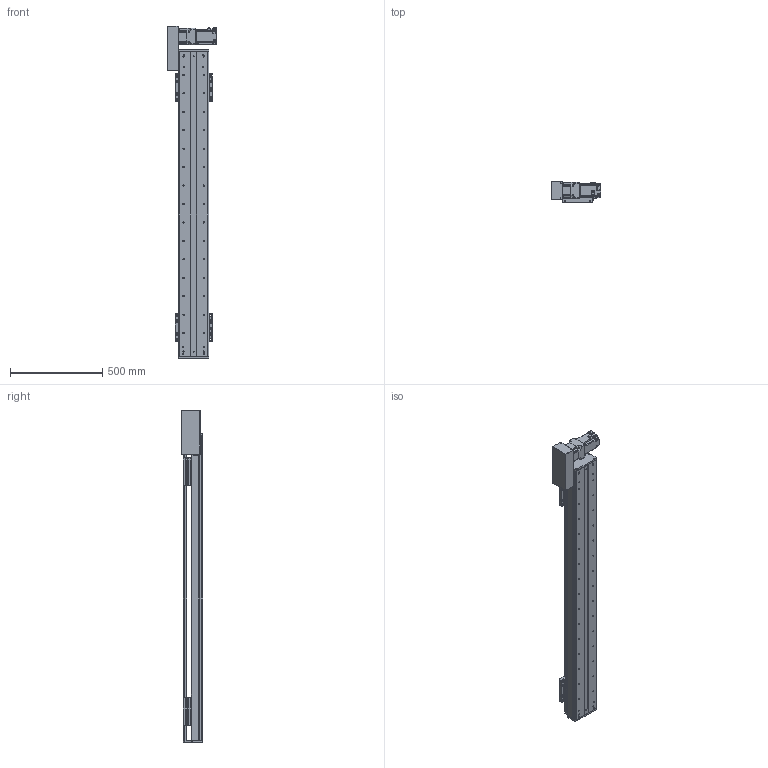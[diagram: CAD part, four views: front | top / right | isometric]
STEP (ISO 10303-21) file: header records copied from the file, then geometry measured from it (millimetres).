
FILE_DESCRIPTION(/* description */ (''),/* implementation_level */ '2;1');
FILE_NAME(/* name */ 'C:\Users\PC\Desktop\3D도면\STEP\DSB165-L7G-W1300-R.stp',/* time_stamp */ '2018-06-25T14:33:48+09:00',/* author */ ('PC'),/* organization */ (''),/* preprocessor_version */ 'ST-DEVELOPER v16.5',/* originating_system */ 'Autodesk Inventor 2017',/* authorisation */ '');
FILE_SCHEMA (('AUTOMOTIVE_DESIGN { 1 0 10303 214 3 1 1 }'));
Length unit declared in the file: millimetre
Products named in the file (12): DSB165-L; DSR165-BASE_S; hg-kr73_; ab0901-p0401300102; 11-DBS165 BELT COVER; DBS165-COVER; DBS165-COVER_1; DBS165-UP COVER; DBS165-TABLE(MSA20S); DSR126-SENSOR DOG; pm-y65_step; SENSOR BRACKET(EE-SX674A)
Assembly tree (16 placements, depth 2):
  DSB165-L
    DSR165-BASE_S
    hg-kr73_
    ab0901-p0401300102
    11-DBS165 BELT COVER
    DBS165-COVER
    DBS165-COVER_1
    DBS165-UP COVER
    DBS165-TABLE(MSA20S)  x2
    DSR126-SENSOR DOG
    pm-y65_step  x3
    SENSOR BRACKET(EE-SX674A)  x3
Bounding box: 270 x 115 x 1800 mm (x, y, z)
Volume: 10238339.2 mm3; surface area: 2380028 mm2
Topology: 17 solids, 22 shells, 1691 faces, 4535 edges, 2988 vertices
Faces by surface type: plane 926, cylinder 631, cone 122, sphere 8, torus 4
Full cylindrical faces by diameter (mm): 2.459 x20, 3.5 x6, 4.134 x42, 4.5 x18, 5 x27, 5.5 x36, 5.9 x4, 6 x8, 6.6 x14, 6.647 x50, 6.8 x1, 7 x4, 7.6 x4, 8 x1, 8.4 x1, 8.5 x24, 8.7 x1, 9.5 x32, 11 x6, 14 x16, 19 x1, 22 x1, 24 x1, 25 x1, 28 x1, 67 x1, 70 x2, 80 x1
Entity records: 35949 total; most frequent: DIRECTION 6364, CARTESIAN_POINT 6151, ORIENTED_EDGE 5582, EDGE_CURVE 2796, AXIS2_PLACEMENT_3D 2352, VERTEX_POINT 2001, EDGE_LOOP 1779, LINE 1660
